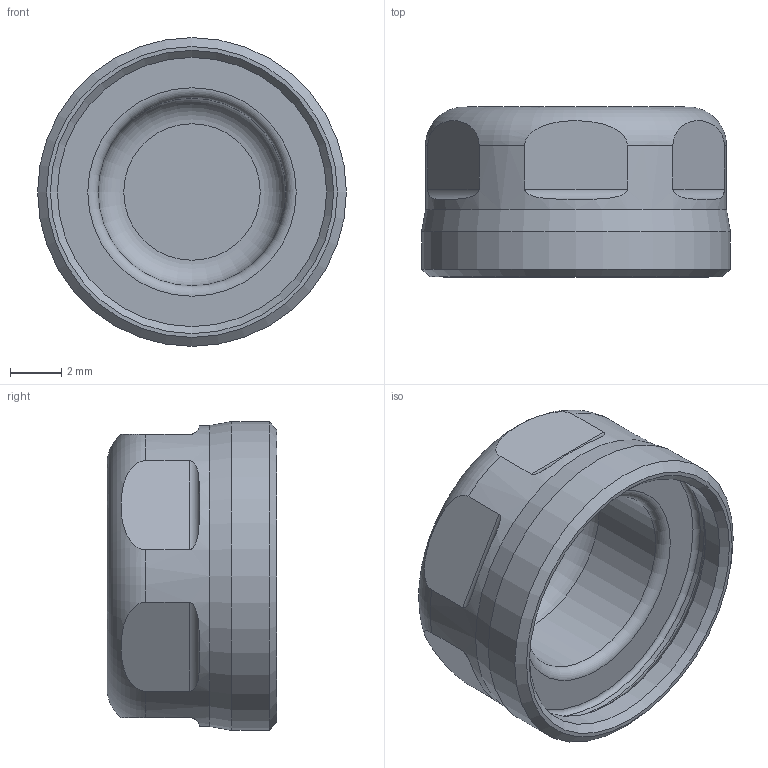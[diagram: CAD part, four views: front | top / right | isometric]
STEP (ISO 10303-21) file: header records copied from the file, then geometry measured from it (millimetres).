
FILE_DESCRIPTION( ( 'STEP AP203' ), ' ' );
FILE_NAME( 'p:/temp/worker_136/3396_2580/app_44_02016062010511765003298192d056f_000000_00_00_000000/format_1/E30148.stp', '2016-06-20T08:51:18', ( '' ), ( '' ), ' ', 'PARTsolutions', ' ' );
FILE_SCHEMA( ( 'CONFIG_CONTROL_DESIGN' ) );
Length unit declared in the file: millimetre
Products named in the file (1): _E30148
Bounding box: 12 x 6.6 x 12 mm (x, y, z)
Volume: 342.9 mm3; surface area: 587.8 mm2
Topology: 1 solids, 1 shells, 30 faces, 68 edges, 42 vertices
Faces by surface type: cylinder 11, plane 10, torus 5, cone 4
Full cylindrical faces by diameter (mm): 7.3 x1, 10.459 x1, 11 x1, 11.7 x1, 12 x1
Entity records: 1054 total; most frequent: CARTESIAN_POINT 411, DIRECTION 124, ORIENTED_EDGE 104, AXIS2_PLACEMENT_3D 53, EDGE_CURVE 52, EDGE_LOOP 46, FACE_OUTER_BOUND 40, VERTEX_POINT 40
